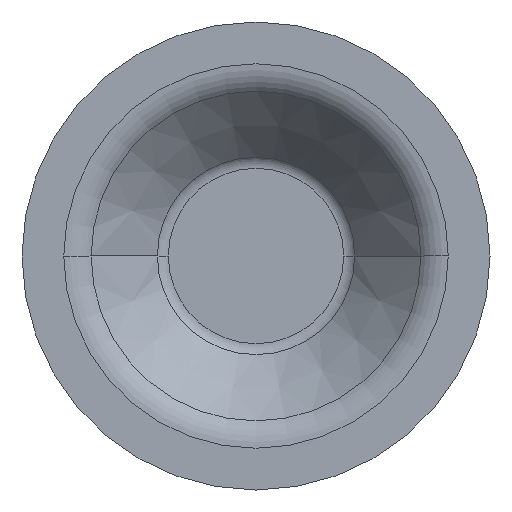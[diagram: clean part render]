
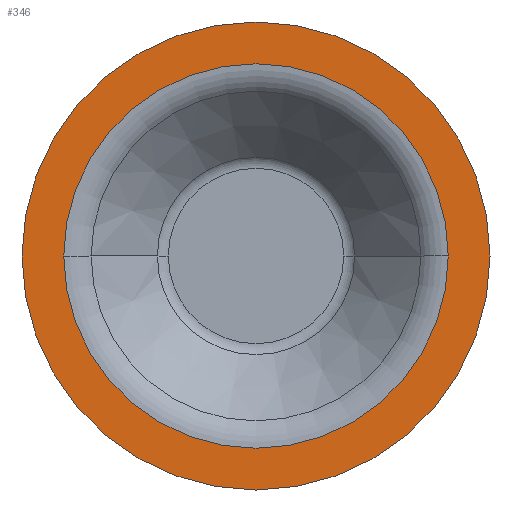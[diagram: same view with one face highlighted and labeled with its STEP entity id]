
A CAD part, front view. The second image highlights one B-rep face of the part: STEP entity #346.
In plain terms, the highlighted planar face has unit normal (0, -1, 0).
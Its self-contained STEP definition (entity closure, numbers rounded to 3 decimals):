
#10 = AXIS2_PLACEMENT_3D ( 'NONE', #1581, #928, #1554 ) ;
#28 = DIRECTION ( 'NONE',  ( 1., 0., 0. ) ) ;
#89 = VERTEX_POINT ( 'NONE', #998 ) ;
#186 = CARTESIAN_POINT ( 'NONE',  ( -31.5, -15., 0. ) ) ;
#248 = VERTEX_POINT ( 'NONE', #667 ) ;
#269 = EDGE_CURVE ( 'NONE', #248, #1072, #1229, .T. ) ;
#296 = CARTESIAN_POINT ( 'NONE',  ( -25.88, -15., 0. ) ) ;
#311 = ORIENTED_EDGE ( 'NONE', *, *, #1204, .T. ) ;
#346 = ADVANCED_FACE ( 'NONE', ( #429, #944 ), #833, .T. ) ;
#355 = AXIS2_PLACEMENT_3D ( 'NONE', #1457, #458, #934 ) ;
#424 = EDGE_CURVE ( 'NONE', #89, #443, #1451, .T. ) ;
#429 = FACE_BOUND ( 'NONE', #1226, .T. ) ;
#443 = VERTEX_POINT ( 'NONE', #186 ) ;
#450 = DIRECTION ( 'NONE',  ( 0., -1., 0. ) ) ;
#458 = DIRECTION ( 'NONE',  ( 0., -1., 0. ) ) ;
#512 = CARTESIAN_POINT ( 'NONE',  ( 0., -15., 0. ) ) ;
#522 = ORIENTED_EDGE ( 'NONE', *, *, #1031, .F. ) ;
#559 = DIRECTION ( 'NONE',  ( 1., 0., 0. ) ) ;
#667 = CARTESIAN_POINT ( 'NONE',  ( 25.88, -15., 0. ) ) ;
#711 = CIRCLE ( 'NONE', #10, 25.88 ) ;
#779 = AXIS2_PLACEMENT_3D ( 'NONE', #1102, #450, #1466 ) ;
#833 = PLANE ( 'NONE',  #355 ) ;
#837 = AXIS2_PLACEMENT_3D ( 'NONE', #512, #1156, #28 ) ;
#928 = DIRECTION ( 'NONE',  ( 0., -1., 0. ) ) ;
#934 = DIRECTION ( 'NONE',  ( 1., 0., 0. ) ) ;
#940 = AXIS2_PLACEMENT_3D ( 'NONE', #1318, #1210, #559 ) ;
#944 = FACE_OUTER_BOUND ( 'NONE', #1401, .T. ) ;
#998 = CARTESIAN_POINT ( 'NONE',  ( 31.5, -15., 0. ) ) ;
#1031 = EDGE_CURVE ( 'NONE', #1072, #248, #711, .T. ) ;
#1072 = VERTEX_POINT ( 'NONE', #296 ) ;
#1102 = CARTESIAN_POINT ( 'NONE',  ( 0., -15., 0. ) ) ;
#1156 = DIRECTION ( 'NONE',  ( 0., -1., 0. ) ) ;
#1204 = EDGE_CURVE ( 'NONE', #443, #89, #1293, .T. ) ;
#1210 = DIRECTION ( 'NONE',  ( 0., -1., 0. ) ) ;
#1226 = EDGE_LOOP ( 'NONE', ( #522, #1546 ) ) ;
#1229 = CIRCLE ( 'NONE', #779, 25.88 ) ;
#1293 = CIRCLE ( 'NONE', #837, 31.5 ) ;
#1318 = CARTESIAN_POINT ( 'NONE',  ( 0., -15., 0. ) ) ;
#1401 = EDGE_LOOP ( 'NONE', ( #1437, #311 ) ) ;
#1437 = ORIENTED_EDGE ( 'NONE', *, *, #424, .T. ) ;
#1451 = CIRCLE ( 'NONE', #940, 31.5 ) ;
#1457 = CARTESIAN_POINT ( 'NONE',  ( 31.5, -15., 0. ) ) ;
#1466 = DIRECTION ( 'NONE',  ( -1., 0., 0. ) ) ;
#1546 = ORIENTED_EDGE ( 'NONE', *, *, #269, .F. ) ;
#1554 = DIRECTION ( 'NONE',  ( -1., 0., 0. ) ) ;
#1581 = CARTESIAN_POINT ( 'NONE',  ( 0., -15., 0. ) ) ;
